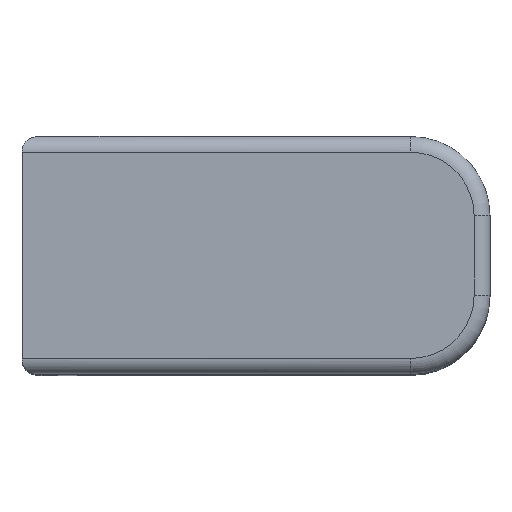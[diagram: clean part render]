
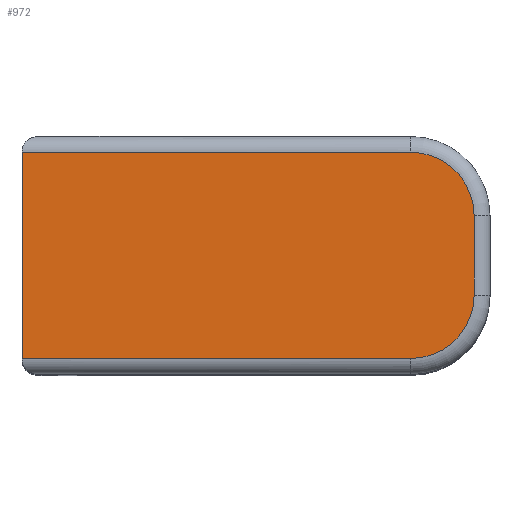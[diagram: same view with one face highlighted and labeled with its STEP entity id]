
A CAD part, top view. The second image highlights one B-rep face of the part: STEP entity #972.
In plain terms, the highlighted planar face has unit normal (0, 0, 1).
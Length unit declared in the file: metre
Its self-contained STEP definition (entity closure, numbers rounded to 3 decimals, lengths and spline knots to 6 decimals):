
#75=CIRCLE('',#1062,0.004);
#76=CIRCLE('',#1063,0.004);
#175=ORIENTED_EDGE('',*,*,#458,.T.);
#176=ORIENTED_EDGE('',*,*,#459,.T.);
#177=ORIENTED_EDGE('',*,*,#413,.F.);
#178=ORIENTED_EDGE('',*,*,#460,.T.);
#179=ORIENTED_EDGE('',*,*,#461,.T.);
#180=ORIENTED_EDGE('',*,*,#462,.T.);
#413=EDGE_CURVE('',#558,#559,#642,.T.);
#458=EDGE_CURVE('',#596,#597,#75,.T.);
#459=EDGE_CURVE('',#597,#559,#675,.F.);
#460=EDGE_CURVE('',#558,#598,#676,.T.);
#461=EDGE_CURVE('',#598,#599,#76,.T.);
#462=EDGE_CURVE('',#599,#596,#677,.T.);
#558=VERTEX_POINT('',#1513);
#559=VERTEX_POINT('',#1514);
#596=VERTEX_POINT('',#1606);
#597=VERTEX_POINT('',#1607);
#598=VERTEX_POINT('',#1610);
#599=VERTEX_POINT('',#1612);
#642=LINE('',#1512,#729);
#675=LINE('',#1608,#762);
#676=LINE('',#1609,#763);
#677=LINE('',#1613,#764);
#729=VECTOR('',#1178,1.);
#762=VECTOR('',#1257,1.);
#763=VECTOR('',#1258,1.);
#764=VECTOR('',#1261,1.);
#820=EDGE_LOOP('',(#175,#176,#177,#178,#179,#180));
#887=FACE_BOUND('',#820,.T.);
#949=PLANE('',#1061);
#972=ADVANCED_FACE('',(#887),#949,.T.);
#1061=AXIS2_PLACEMENT_3D('',#1604,#1253,#1254);
#1062=AXIS2_PLACEMENT_3D('',#1605,#1255,#1256);
#1063=AXIS2_PLACEMENT_3D('',#1611,#1259,#1260);
#1178=DIRECTION('',(0.,1.,0.));
#1253=DIRECTION('',(0.,0.,1.));
#1254=DIRECTION('',(1.,0.,0.));
#1255=DIRECTION('',(0.,0.,1.));
#1256=DIRECTION('',(1.,0.,0.));
#1257=DIRECTION('',(1.,0.,0.));
#1258=DIRECTION('',(1.,0.,0.));
#1259=DIRECTION('',(0.,0.,1.));
#1260=DIRECTION('',(1.,0.,0.));
#1261=DIRECTION('',(0.,1.,0.));
#1512=CARTESIAN_POINT('',(0.,-0.0075,0.043));
#1513=CARTESIAN_POINT('',(0.,-0.0065,0.043));
#1514=CARTESIAN_POINT('',(0.,0.0065,0.043));
#1604=CARTESIAN_POINT('',(0.01475,-0.0075,0.043));
#1605=CARTESIAN_POINT('',(0.0245,0.0025,0.043));
#1606=CARTESIAN_POINT('',(0.0285,0.0025,0.043));
#1607=CARTESIAN_POINT('',(0.0245,0.0065,0.043));
#1608=CARTESIAN_POINT('',(0.,0.0065,0.043));
#1609=CARTESIAN_POINT('',(0.01475,-0.0065,0.043));
#1610=CARTESIAN_POINT('',(0.0245,-0.0065,0.043));
#1611=CARTESIAN_POINT('',(0.0245,-0.0025,0.043));
#1612=CARTESIAN_POINT('',(0.0285,-0.0025,0.043));
#1613=CARTESIAN_POINT('',(0.0285,-0.0075,0.043));
